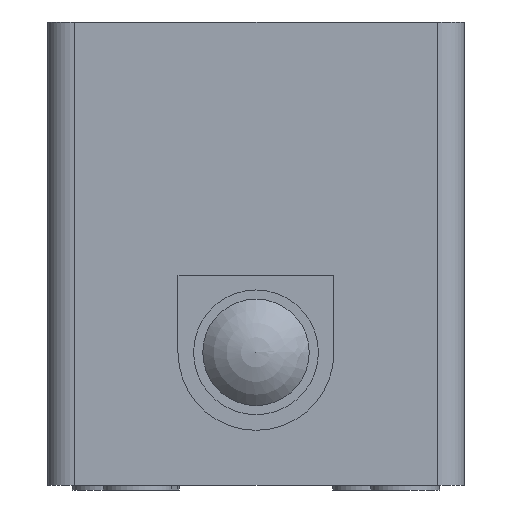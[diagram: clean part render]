
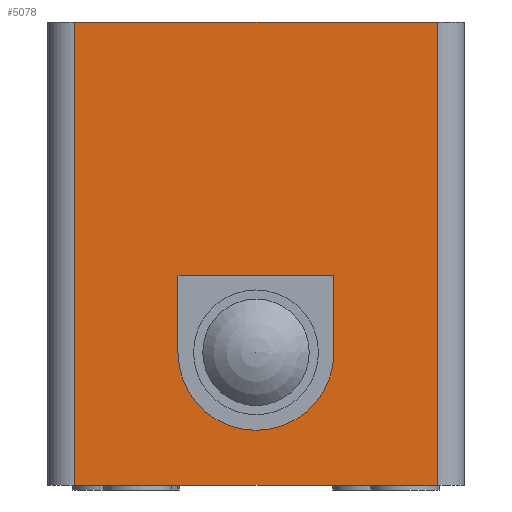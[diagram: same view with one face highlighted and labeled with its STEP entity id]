
A CAD part, front view. The second image highlights one B-rep face of the part: STEP entity #5078.
In plain terms, the highlighted planar face has unit normal (0, -1, 0).
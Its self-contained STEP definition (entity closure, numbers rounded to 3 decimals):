
#74 = AXIS2_PLACEMENT_3D ( 'NONE', #6302, #6303, #6304 ) ;
#78 = FACE_OUTER_BOUND ( 'NONE', #2030, .T. ) ;
#84 = FACE_BOUND ( 'NONE', #2033, .T. ) ;
#568 = VECTOR ( 'NONE', #5338, 1000. ) ;
#638 = AXIS2_PLACEMENT_3D ( 'NONE', #5524, #5633, #5634 ) ;
#639 = VECTOR ( 'NONE', #5632, 1000. ) ;
#640 = VECTOR ( 'NONE', #5638, 1000. ) ;
#641 = VECTOR ( 'NONE', #5641, 1000. ) ;
#642 = VECTOR ( 'NONE', #5644, 1000. ) ;
#643 = VECTOR ( 'NONE', #5647, 1000. ) ;
#644 = VECTOR ( 'NONE', #5650, 1000. ) ;
#1060 = VERTEX_POINT ( 'NONE', #2899 ) ;
#1061 = VERTEX_POINT ( 'NONE', #2900 ) ;
#1187 = VERTEX_POINT ( 'NONE', #3026 ) ;
#1188 = VERTEX_POINT ( 'NONE', #3027 ) ;
#1189 = VERTEX_POINT ( 'NONE', #3028 ) ;
#1190 = VERTEX_POINT ( 'NONE', #3029 ) ;
#1191 = VERTEX_POINT ( 'NONE', #3030 ) ;
#1192 = VERTEX_POINT ( 'NONE', #3031 ) ;
#1795 = EDGE_CURVE ( 'NONE', #1061, #1060, #5336, .T. ) ;
#1869 = EDGE_CURVE ( 'NONE', #1188, #1189, #5630, .T. ) ;
#1870 = EDGE_CURVE ( 'NONE', #1187, #1188, #3248, .T. ) ;
#1871 = EDGE_CURVE ( 'NONE', #1189, #1190, #5636, .T. ) ;
#1872 = EDGE_CURVE ( 'NONE', #1190, #1187, #5639, .T. ) ;
#1873 = EDGE_CURVE ( 'NONE', #1060, #1191, #5642, .T. ) ;
#1874 = EDGE_CURVE ( 'NONE', #1192, #1191, #5645, .T. ) ;
#1875 = EDGE_CURVE ( 'NONE', #1192, #1061, #5648, .T. ) ;
#2030 = EDGE_LOOP ( 'NONE', ( #2416, #2415, #2414, #2417 ) ) ;
#2033 = EDGE_LOOP ( 'NONE', ( #2410, #2412, #2411, #2413 ) ) ;
#2410 = ORIENTED_EDGE ( 'NONE', *, *, #1870, .T. ) ;
#2411 = ORIENTED_EDGE ( 'NONE', *, *, #1871, .T. ) ;
#2412 = ORIENTED_EDGE ( 'NONE', *, *, #1869, .T. ) ;
#2413 = ORIENTED_EDGE ( 'NONE', *, *, #1872, .T. ) ;
#2414 = ORIENTED_EDGE ( 'NONE', *, *, #1874, .F. ) ;
#2415 = ORIENTED_EDGE ( 'NONE', *, *, #1873, .T. ) ;
#2416 = ORIENTED_EDGE ( 'NONE', *, *, #1795, .T. ) ;
#2417 = ORIENTED_EDGE ( 'NONE', *, *, #1875, .T. ) ;
#2899 = CARTESIAN_POINT ( 'NONE',  ( 19.75, -45.25, -25.25 ) ) ;
#2900 = CARTESIAN_POINT ( 'NONE',  ( -19.75, -45.25, -25.25 ) ) ;
#3026 = CARTESIAN_POINT ( 'NONE',  ( 8.5, -45.25, -10.75 ) ) ;
#3027 = CARTESIAN_POINT ( 'NONE',  ( -8.5, -45.25, -10.75 ) ) ;
#3028 = CARTESIAN_POINT ( 'NONE',  ( -8.5, -45.25, -2.35 ) ) ;
#3029 = CARTESIAN_POINT ( 'NONE',  ( 8.5, -45.25, -2.35 ) ) ;
#3030 = CARTESIAN_POINT ( 'NONE',  ( 19.75, -45.25, 25.25 ) ) ;
#3031 = CARTESIAN_POINT ( 'NONE',  ( -19.75, -45.25, 25.25 ) ) ;
#3248 = CIRCLE ( 'NONE', #638, 8.5 ) ;
#5078 = ADVANCED_FACE ( 'NONE', ( #84, #78 ), #6301, .F. ) ;
#5336 = LINE ( 'NONE', #5337, #568 ) ;
#5337 = CARTESIAN_POINT ( 'NONE',  ( -22.75, -45.25, -25.25 ) ) ;
#5338 = DIRECTION ( 'NONE',  ( 1., 0., 0. ) ) ;
#5524 = CARTESIAN_POINT ( 'NONE',  ( 0., -45.25, -10.75 ) ) ;
#5630 = LINE ( 'NONE', #5631, #639 ) ;
#5631 = CARTESIAN_POINT ( 'NONE',  ( -8.5, -45.25, -2.35 ) ) ;
#5632 = DIRECTION ( 'NONE',  ( 0., 0., 1. ) ) ;
#5633 = DIRECTION ( 'NONE',  ( 0., 1., 0. ) ) ;
#5634 = DIRECTION ( 'NONE',  ( 0., 0., 1. ) ) ;
#5636 = LINE ( 'NONE', #5637, #640 ) ;
#5637 = CARTESIAN_POINT ( 'NONE',  ( -8.5, -45.25, -2.35 ) ) ;
#5638 = DIRECTION ( 'NONE',  ( 1., 0., 0. ) ) ;
#5639 = LINE ( 'NONE', #5640, #641 ) ;
#5640 = CARTESIAN_POINT ( 'NONE',  ( 8.5, -45.25, -2.35 ) ) ;
#5641 = DIRECTION ( 'NONE',  ( 0., 0., -1. ) ) ;
#5642 = LINE ( 'NONE', #5643, #642 ) ;
#5643 = CARTESIAN_POINT ( 'NONE',  ( 19.75, -45.25, 25.25 ) ) ;
#5644 = DIRECTION ( 'NONE',  ( 0., 0., 1. ) ) ;
#5645 = LINE ( 'NONE', #5646, #643 ) ;
#5646 = CARTESIAN_POINT ( 'NONE',  ( -22.75, -45.25, 25.25 ) ) ;
#5647 = DIRECTION ( 'NONE',  ( 1., 0., 0. ) ) ;
#5648 = LINE ( 'NONE', #5649, #644 ) ;
#5649 = CARTESIAN_POINT ( 'NONE',  ( -19.75, -45.25, 25.25 ) ) ;
#5650 = DIRECTION ( 'NONE',  ( 0., 0., -1. ) ) ;
#6301 = PLANE ( 'NONE',  #74 ) ;
#6302 = CARTESIAN_POINT ( 'NONE',  ( -22.75, -45.25, 25.25 ) ) ;
#6303 = DIRECTION ( 'NONE',  ( 0., 1., 0. ) ) ;
#6304 = DIRECTION ( 'NONE',  ( 0., 0., 1. ) ) ;
